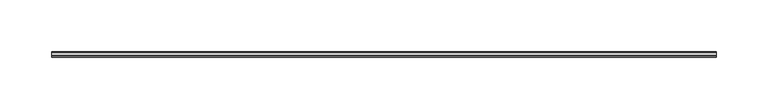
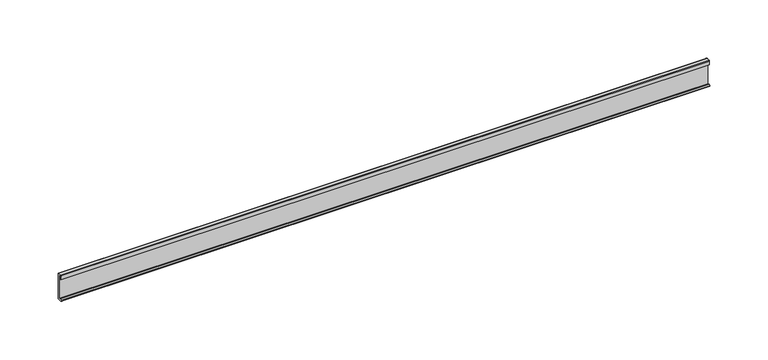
"""IFC4 building model written with IfcOpenShell, lengths in millimetres: proxy geometry, Weiku - Montante - Capa de folha 02.3.02.406 : Weiku - Montante - Capa de folha 02.3.02.406."""

from ifc_helpers import new_model, si_unit, point, frame, frame_2d, origin, place, context, project, spatial, polyline, circle_curve, trimmed, segment, composite_curve, outline, extrude, source, transform, mapped, element, save


def generic_models_08dbcad4(model_context):
    return source(origin(), model_context, "Body", "SweptSolid", [
        extrude(outline(composite_curve([segment(polyline([(-4.6421508, 2.2715508), (-3.3866, 1.016), (-1.6933, 1.016), (-1.6933, 25.684), (-3.3063, 25.684), (-3.3063, 22.3396), (-4.28, 22.3396), (-4.28, 26.2)]), True, "CONTINUOUS"), segment(trimmed(circle_curve(frame_2d((-3.78, 26.2)), 0.5), [point((-4.28, 26.2))], [point((-3.78, 26.7))], False, "CARTESIAN"), True, "CONTINUOUS"), segment(polyline([(-3.78, 26.7), (-0.5, 26.7)]), True, "CONTINUOUS"), segment(trimmed(circle_curve(frame_2d((-0.5, 26.2)), 0.5), [point((-0.5, 26.7))], [point((0.0, 26.2))], False, "CARTESIAN"), True, "CONTINUOUS"), segment(polyline([(0.0, 26.2), (0.0, 0.5)]), True, "CONTINUOUS"), segment(trimmed(circle_curve(frame_2d((-0.5, 0.5)), 0.5), [point((0.0, 0.5))], [point((-0.5, 0.0))], False, "CARTESIAN"), True, "CONTINUOUS"), segment(polyline([(-0.5, 0.0), (-4.7576991, 0.0)]), True, "CONTINUOUS"), segment(trimmed(circle_curve(frame_2d((-4.7576991, 0.7)), 0.7), [point((-4.7576991, 0.0))], [point((-5.3603515, 1.056104))], False, "CARTESIAN"), True, "CONTINUOUS"), segment(polyline([(-5.3603515, 1.056104), (-4.6421508, 2.2715508)]), True, "CONTINUOUS")], self_intersect=False)), frame((-322.35, 0.0, 0.0), z_axis=(1.0, 0.0, 0.0), x_axis=(0.0, 1.0, 0.0)), (0.0, 0.0, 1.0), 644.7),
    ])


if __name__ == "__main__":
    model = new_model("IFC4")
    model_context = context("Model", 3, world=origin())
    ifc_project = project(units=[si_unit("LENGTHUNIT", "METRE", prefix="MILLI")], contexts=[model_context])
    site = spatial("IfcSite", under=ifc_project)
    building = spatial("IfcBuilding", under=site)
    placement = place(None, origin())
    generic_models_shape = generic_models_08dbcad4(model_context)
    element("IfcBuildingElementProxy", 1, Name="Weiku - Montante - Capa de folha 02.3.02.406 : Weiku - Montante - Capa de folha 02.3.02.406", ObjectType="Weiku - Montante - Capa de folha 02.3.02.406 : Weiku - Montante - Capa de folha 02.3.02.406", at=placement, inside=building, context=model_context, shape_type="MappedRepresentation", body=[
        mapped(generic_models_shape, transform((0.0, 0.0, 0.0), x_axis=(1.0, 0.0, 0.0), y_axis=(0.0, 1.0, 0.0), z_axis=(0.0, 0.0, 1.0))),
    ])
    save(model, "model.ifc")
